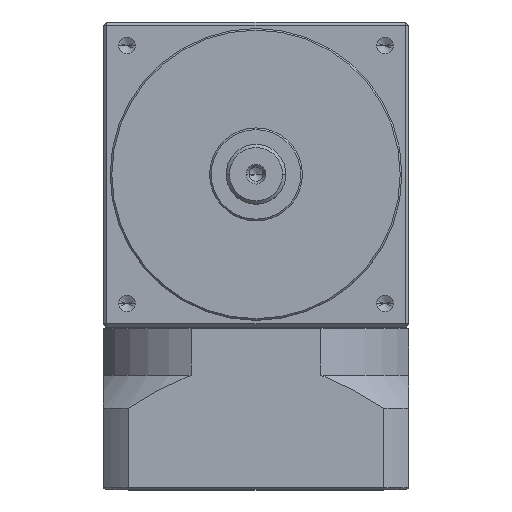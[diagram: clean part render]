
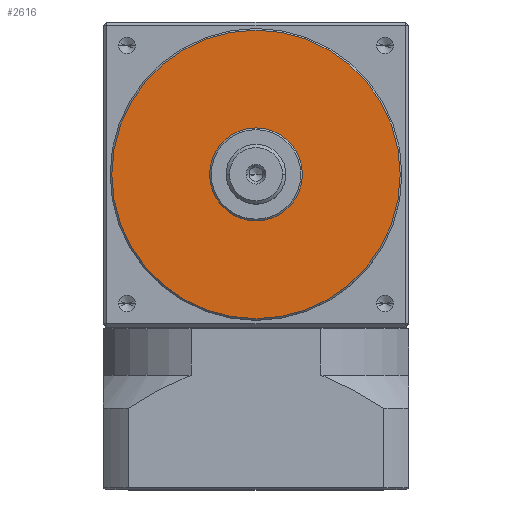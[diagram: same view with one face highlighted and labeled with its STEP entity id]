
A CAD part, top view. The second image highlights one B-rep face of the part: STEP entity #2616.
In plain terms, the highlighted planar face has unit normal (0, 0, 1).
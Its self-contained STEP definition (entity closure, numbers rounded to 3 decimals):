
#63 = EDGE_CURVE ( 'NONE', #5526, #5531, #5052, .T. ) ;
#64 = EDGE_CURVE ( 'NONE', #5545, #5547, #5054, .T. ) ;
#393 = AXIS2_PLACEMENT_3D ( 'NONE', #6058, #6056, #6055 ) ;
#394 = AXIS2_PLACEMENT_3D ( 'NONE', #6054, #6053, #6052 ) ;
#557 = AXIS2_PLACEMENT_3D ( 'NONE', #6741, #6742, #6743 ) ;
#563 = AXIS2_PLACEMENT_3D ( 'NONE', #6773, #6774, #6775 ) ;
#1517 = FACE_OUTER_BOUND ( 'NONE', #7933, .T. ) ;
#1525 = FACE_BOUND ( 'NONE', #8060, .T. ) ;
#1862 = EDGE_CURVE ( 'NONE', #5531, #5526, #7704, .T. ) ;
#1874 = EDGE_CURVE ( 'NONE', #5547, #5545, #7726, .T. ) ;
#2021 = CARTESIAN_POINT ( 'NONE',  ( 0., 0., 65. ) ) ;
#2024 = PLANE ( 'NONE',  #3566 ) ;
#2026 = DIRECTION ( 'NONE',  ( 0., 0., 1. ) ) ;
#2027 = DIRECTION ( 'NONE',  ( 1., 0., 0. ) ) ;
#2616 = ADVANCED_FACE ( 'NONE', ( #1517, #1525 ), #2024, .T. ) ;
#3566 = AXIS2_PLACEMENT_3D ( 'NONE', #2021, #2026, #2027 ) ;
#5052 = CIRCLE ( 'NONE', #393, 43.5 ) ;
#5054 = CIRCLE ( 'NONE', #394, 14. ) ;
#5526 = VERTEX_POINT ( 'NONE', #8727 ) ;
#5531 = VERTEX_POINT ( 'NONE', #8732 ) ;
#5545 = VERTEX_POINT ( 'NONE', #8746 ) ;
#5547 = VERTEX_POINT ( 'NONE', #8748 ) ;
#6052 = DIRECTION ( 'NONE',  ( 1., 0., 0. ) ) ;
#6053 = DIRECTION ( 'NONE',  ( 0., 0., 1. ) ) ;
#6054 = CARTESIAN_POINT ( 'NONE',  ( 0., 0., 65. ) ) ;
#6055 = DIRECTION ( 'NONE',  ( 1., 0., 0. ) ) ;
#6056 = DIRECTION ( 'NONE',  ( 0., 0., 1. ) ) ;
#6058 = CARTESIAN_POINT ( 'NONE',  ( 0., 0., 65. ) ) ;
#6741 = CARTESIAN_POINT ( 'NONE',  ( 0., 0., 65. ) ) ;
#6742 = DIRECTION ( 'NONE',  ( 0., 0., 1. ) ) ;
#6743 = DIRECTION ( 'NONE',  ( 1., 0., 0. ) ) ;
#6773 = CARTESIAN_POINT ( 'NONE',  ( 0., 0., 65. ) ) ;
#6774 = DIRECTION ( 'NONE',  ( 0., 0., 1. ) ) ;
#6775 = DIRECTION ( 'NONE',  ( 1., 0., 0. ) ) ;
#7704 = CIRCLE ( 'NONE', #557, 43.5 ) ;
#7726 = CIRCLE ( 'NONE', #563, 14. ) ;
#7840 = ORIENTED_EDGE ( 'NONE', *, *, #1874, .F. ) ;
#7841 = ORIENTED_EDGE ( 'NONE', *, *, #64, .F. ) ;
#7842 = ORIENTED_EDGE ( 'NONE', *, *, #1862, .T. ) ;
#7843 = ORIENTED_EDGE ( 'NONE', *, *, #63, .T. ) ;
#7933 = EDGE_LOOP ( 'NONE', ( #7843, #7842 ) ) ;
#8060 = EDGE_LOOP ( 'NONE', ( #7841, #7840 ) ) ;
#8727 = CARTESIAN_POINT ( 'NONE',  ( -43.5, 0., 65. ) ) ;
#8732 = CARTESIAN_POINT ( 'NONE',  ( 43.5, 0., 65. ) ) ;
#8746 = CARTESIAN_POINT ( 'NONE',  ( -14., 0., 65. ) ) ;
#8748 = CARTESIAN_POINT ( 'NONE',  ( 14., 0., 65. ) ) ;
